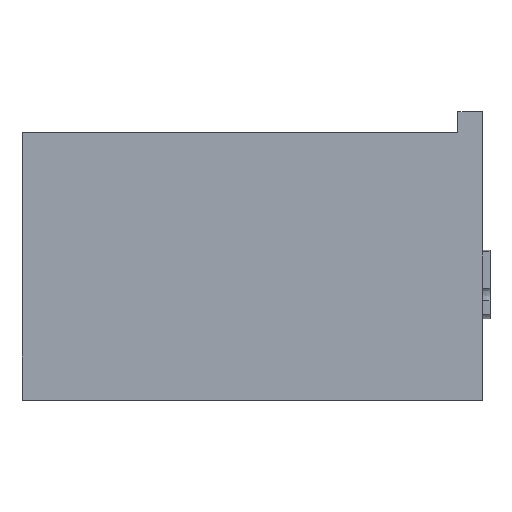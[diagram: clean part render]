
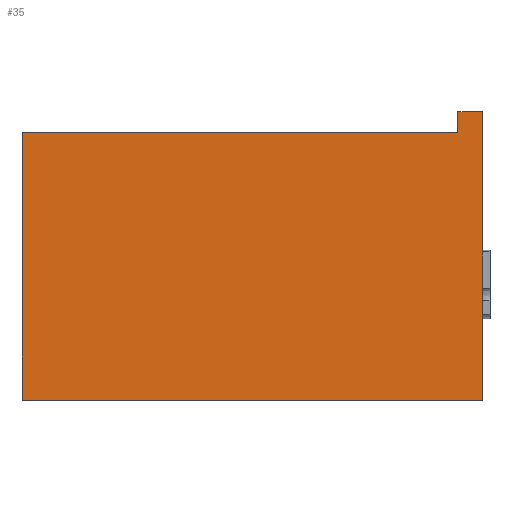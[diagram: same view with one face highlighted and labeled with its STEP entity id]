
A CAD part, left-side view. The second image highlights one B-rep face of the part: STEP entity #35.
In plain terms, the highlighted planar face has unit normal (-1, 0, 0).
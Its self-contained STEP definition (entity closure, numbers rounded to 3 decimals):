
#35 = ADVANCED_FACE('',(#36),#50,.F.);
#36 = FACE_BOUND('',#37,.F.);
#37 = EDGE_LOOP('',(#38,#73,#101,#129,#157,#185));
#38 = ORIENTED_EDGE('',*,*,#39,.F.);
#39 = EDGE_CURVE('',#40,#42,#44,.T.);
#40 = VERTEX_POINT('',#41);
#41 = CARTESIAN_POINT('',(-13.145,-3.,0.));
#42 = VERTEX_POINT('',#43);
#43 = CARTESIAN_POINT('',(-13.145,-3.,35.));
#44 = SURFACE_CURVE('',#45,(#49,#61),.PCURVE_S1.);
#45 = LINE('',#46,#47);
#46 = CARTESIAN_POINT('',(-13.145,-3.,0.));
#47 = VECTOR('',#48,1.);
#48 = DIRECTION('',(0.,0.,1.));
#49 = PCURVE('',#50,#55);
#50 = PLANE('',#51);
#51 = AXIS2_PLACEMENT_3D('',#52,#53,#54);
#52 = CARTESIAN_POINT('',(-13.145,-3.,0.));
#53 = DIRECTION('',(1.,0.,-0.));
#54 = DIRECTION('',(0.,0.,1.));
#55 = DEFINITIONAL_REPRESENTATION('',(#56),#60);
#56 = LINE('',#57,#58);
#57 = CARTESIAN_POINT('',(0.,0.));
#58 = VECTOR('',#59,1.);
#59 = DIRECTION('',(1.,0.));
#60 = ( GEOMETRIC_REPRESENTATION_CONTEXT(2) 
PARAMETRIC_REPRESENTATION_CONTEXT() REPRESENTATION_CONTEXT('2D SPACE',''
  ) );
#61 = PCURVE('',#62,#67);
#62 = PLANE('',#63);
#63 = AXIS2_PLACEMENT_3D('',#64,#65,#66);
#64 = CARTESIAN_POINT('',(-13.145,-3.,0.));
#65 = DIRECTION('',(-0.,1.,0.));
#66 = DIRECTION('',(0.,0.,1.));
#67 = DEFINITIONAL_REPRESENTATION('',(#68),#72);
#68 = LINE('',#69,#70);
#69 = CARTESIAN_POINT('',(0.,0.));
#70 = VECTOR('',#71,1.);
#71 = DIRECTION('',(1.,0.));
#72 = ( GEOMETRIC_REPRESENTATION_CONTEXT(2) 
PARAMETRIC_REPRESENTATION_CONTEXT() REPRESENTATION_CONTEXT('2D SPACE',''
  ) );
#73 = ORIENTED_EDGE('',*,*,#74,.F.);
#74 = EDGE_CURVE('',#75,#40,#77,.T.);
#75 = VERTEX_POINT('',#76);
#76 = CARTESIAN_POINT('',(-13.145,52.935,0.));
#77 = SURFACE_CURVE('',#78,(#82,#89),.PCURVE_S1.);
#78 = LINE('',#79,#80);
#79 = CARTESIAN_POINT('',(-13.145,52.935,0.));
#80 = VECTOR('',#81,1.);
#81 = DIRECTION('',(0.,-1.,0.));
#82 = PCURVE('',#50,#83);
#83 = DEFINITIONAL_REPRESENTATION('',(#84),#88);
#84 = LINE('',#85,#86);
#85 = CARTESIAN_POINT('',(0.,-55.935));
#86 = VECTOR('',#87,1.);
#87 = DIRECTION('',(0.,1.));
#88 = ( GEOMETRIC_REPRESENTATION_CONTEXT(2) 
PARAMETRIC_REPRESENTATION_CONTEXT() REPRESENTATION_CONTEXT('2D SPACE',''
  ) );
#89 = PCURVE('',#90,#95);
#90 = PLANE('',#91);
#91 = AXIS2_PLACEMENT_3D('',#92,#93,#94);
#92 = CARTESIAN_POINT('',(-13.145,-3.,0.));
#93 = DIRECTION('',(0.,0.,1.));
#94 = DIRECTION('',(1.,0.,-0.));
#95 = DEFINITIONAL_REPRESENTATION('',(#96),#100);
#96 = LINE('',#97,#98);
#97 = CARTESIAN_POINT('',(0.,55.935));
#98 = VECTOR('',#99,1.);
#99 = DIRECTION('',(0.,-1.));
#100 = ( GEOMETRIC_REPRESENTATION_CONTEXT(2) 
PARAMETRIC_REPRESENTATION_CONTEXT() REPRESENTATION_CONTEXT('2D SPACE',''
  ) );
#101 = ORIENTED_EDGE('',*,*,#102,.T.);
#102 = EDGE_CURVE('',#75,#103,#105,.T.);
#103 = VERTEX_POINT('',#104);
#104 = CARTESIAN_POINT('',(-13.145,52.935,32.5));
#105 = SURFACE_CURVE('',#106,(#110,#117),.PCURVE_S1.);
#106 = LINE('',#107,#108);
#107 = CARTESIAN_POINT('',(-13.145,52.935,0.));
#108 = VECTOR('',#109,1.);
#109 = DIRECTION('',(0.,0.,1.));
#110 = PCURVE('',#50,#111);
#111 = DEFINITIONAL_REPRESENTATION('',(#112),#116);
#112 = LINE('',#113,#114);
#113 = CARTESIAN_POINT('',(0.,-55.935));
#114 = VECTOR('',#115,1.);
#115 = DIRECTION('',(1.,0.));
#116 = ( GEOMETRIC_REPRESENTATION_CONTEXT(2) 
PARAMETRIC_REPRESENTATION_CONTEXT() REPRESENTATION_CONTEXT('2D SPACE',''
  ) );
#117 = PCURVE('',#118,#123);
#118 = PLANE('',#119);
#119 = AXIS2_PLACEMENT_3D('',#120,#121,#122);
#120 = CARTESIAN_POINT('',(-13.145,52.935,0.));
#121 = DIRECTION('',(-0.,1.,0.));
#122 = DIRECTION('',(0.,0.,1.));
#123 = DEFINITIONAL_REPRESENTATION('',(#124),#128);
#124 = LINE('',#125,#126);
#125 = CARTESIAN_POINT('',(0.,0.));
#126 = VECTOR('',#127,1.);
#127 = DIRECTION('',(1.,0.));
#128 = ( GEOMETRIC_REPRESENTATION_CONTEXT(2) 
PARAMETRIC_REPRESENTATION_CONTEXT() REPRESENTATION_CONTEXT('2D SPACE',''
  ) );
#129 = ORIENTED_EDGE('',*,*,#130,.F.);
#130 = EDGE_CURVE('',#131,#103,#133,.T.);
#131 = VERTEX_POINT('',#132);
#132 = CARTESIAN_POINT('',(-13.145,0.,32.5));
#133 = SURFACE_CURVE('',#134,(#138,#145),.PCURVE_S1.);
#134 = LINE('',#135,#136);
#135 = CARTESIAN_POINT('',(-13.145,0.,32.5));
#136 = VECTOR('',#137,1.);
#137 = DIRECTION('',(-0.,1.,0.));
#138 = PCURVE('',#50,#139);
#139 = DEFINITIONAL_REPRESENTATION('',(#140),#144);
#140 = LINE('',#141,#142);
#141 = CARTESIAN_POINT('',(32.5,-3.));
#142 = VECTOR('',#143,1.);
#143 = DIRECTION('',(0.,-1.));
#144 = ( GEOMETRIC_REPRESENTATION_CONTEXT(2) 
PARAMETRIC_REPRESENTATION_CONTEXT() REPRESENTATION_CONTEXT('2D SPACE',''
  ) );
#145 = PCURVE('',#146,#151);
#146 = PLANE('',#147);
#147 = AXIS2_PLACEMENT_3D('',#148,#149,#150);
#148 = CARTESIAN_POINT('',(-13.145,0.,32.5));
#149 = DIRECTION('',(0.,0.,1.));
#150 = DIRECTION('',(1.,0.,-0.));
#151 = DEFINITIONAL_REPRESENTATION('',(#152),#156);
#152 = LINE('',#153,#154);
#153 = CARTESIAN_POINT('',(0.,0.));
#154 = VECTOR('',#155,1.);
#155 = DIRECTION('',(0.,1.));
#156 = ( GEOMETRIC_REPRESENTATION_CONTEXT(2) 
PARAMETRIC_REPRESENTATION_CONTEXT() REPRESENTATION_CONTEXT('2D SPACE',''
  ) );
#157 = ORIENTED_EDGE('',*,*,#158,.T.);
#158 = EDGE_CURVE('',#131,#159,#161,.T.);
#159 = VERTEX_POINT('',#160);
#160 = CARTESIAN_POINT('',(-13.145,0.,35.));
#161 = SURFACE_CURVE('',#162,(#166,#173),.PCURVE_S1.);
#162 = LINE('',#163,#164);
#163 = CARTESIAN_POINT('',(-13.145,0.,0.));
#164 = VECTOR('',#165,1.);
#165 = DIRECTION('',(0.,0.,1.));
#166 = PCURVE('',#50,#167);
#167 = DEFINITIONAL_REPRESENTATION('',(#168),#172);
#168 = LINE('',#169,#170);
#169 = CARTESIAN_POINT('',(0.,-3.));
#170 = VECTOR('',#171,1.);
#171 = DIRECTION('',(1.,0.));
#172 = ( GEOMETRIC_REPRESENTATION_CONTEXT(2) 
PARAMETRIC_REPRESENTATION_CONTEXT() REPRESENTATION_CONTEXT('2D SPACE',''
  ) );
#173 = PCURVE('',#174,#179);
#174 = PLANE('',#175);
#175 = AXIS2_PLACEMENT_3D('',#176,#177,#178);
#176 = CARTESIAN_POINT('',(-13.145,0.,0.));
#177 = DIRECTION('',(-0.,1.,0.));
#178 = DIRECTION('',(0.,0.,1.));
#179 = DEFINITIONAL_REPRESENTATION('',(#180),#184);
#180 = LINE('',#181,#182);
#181 = CARTESIAN_POINT('',(0.,0.));
#182 = VECTOR('',#183,1.);
#183 = DIRECTION('',(1.,0.));
#184 = ( GEOMETRIC_REPRESENTATION_CONTEXT(2) 
PARAMETRIC_REPRESENTATION_CONTEXT() REPRESENTATION_CONTEXT('2D SPACE',''
  ) );
#185 = ORIENTED_EDGE('',*,*,#186,.F.);
#186 = EDGE_CURVE('',#42,#159,#187,.T.);
#187 = SURFACE_CURVE('',#188,(#192,#199),.PCURVE_S1.);
#188 = LINE('',#189,#190);
#189 = CARTESIAN_POINT('',(-13.145,-3.,35.));
#190 = VECTOR('',#191,1.);
#191 = DIRECTION('',(-0.,1.,0.));
#192 = PCURVE('',#50,#193);
#193 = DEFINITIONAL_REPRESENTATION('',(#194),#198);
#194 = LINE('',#195,#196);
#195 = CARTESIAN_POINT('',(35.,0.));
#196 = VECTOR('',#197,1.);
#197 = DIRECTION('',(0.,-1.));
#198 = ( GEOMETRIC_REPRESENTATION_CONTEXT(2) 
PARAMETRIC_REPRESENTATION_CONTEXT() REPRESENTATION_CONTEXT('2D SPACE',''
  ) );
#199 = PCURVE('',#200,#205);
#200 = PLANE('',#201);
#201 = AXIS2_PLACEMENT_3D('',#202,#203,#204);
#202 = CARTESIAN_POINT('',(-13.145,-3.,35.));
#203 = DIRECTION('',(0.,0.,1.));
#204 = DIRECTION('',(1.,0.,-0.));
#205 = DEFINITIONAL_REPRESENTATION('',(#206),#210);
#206 = LINE('',#207,#208);
#207 = CARTESIAN_POINT('',(0.,0.));
#208 = VECTOR('',#209,1.);
#209 = DIRECTION('',(0.,1.));
#210 = ( GEOMETRIC_REPRESENTATION_CONTEXT(2) 
PARAMETRIC_REPRESENTATION_CONTEXT() REPRESENTATION_CONTEXT('2D SPACE',''
  ) );
